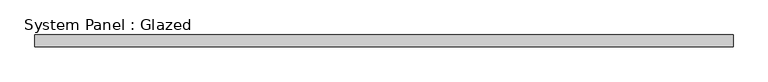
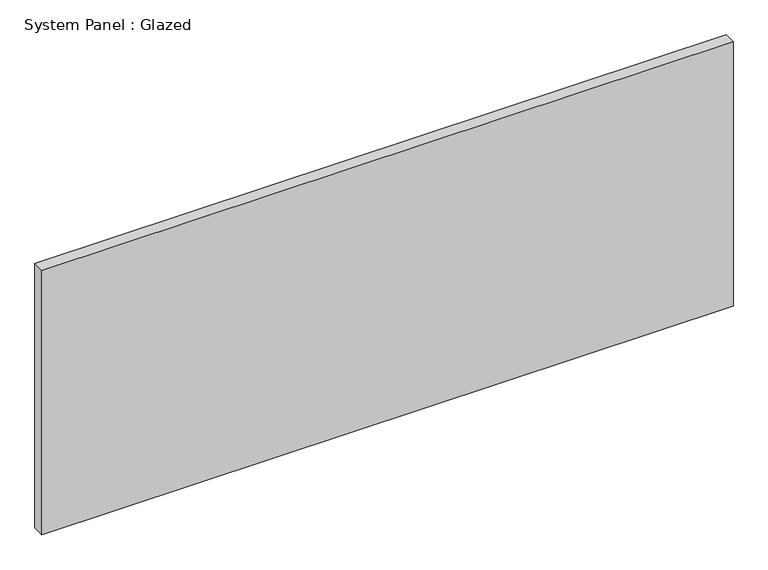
"""IFC4 building model written with IfcOpenShell, lengths in millimetres: plate geometry, System Panel : Glazed."""

import ifcopenshell
import ifcopenshell.guid

model = None  # the IFC model being written
_history = None  # IfcOwnerHistory: only IFC2X3 demands one
_inside = {}  # id of a spatial element -> (the spatial element, [elements in it])
_under = {}  # id of a project, library or spatial element -> (it, [spatial elements below it])
_declared = {}  # id of a project -> (the project, [libraries it declares])
_typed = {}  # id of a type object -> (the type object, [elements of that type])
_made_of = {}  # id of a material, layer set ... -> (it, [elements and type objects made of it])


def new_model(schema):
    """Start an empty IFC model of exactly this schema.

    Asked for "IFC4X3", IfcOpenShell would pick the latest addendum, in which some entities
    have other attributes; the version numbers below select the first issue.
    IFC2X3 requires an IfcOwnerHistory on every rooted entity: one is made here for all.
    """
    global model, _history
    if schema == "IFC4X3":
        model = ifcopenshell.file(schema_version=(4, 3, 0, 0))
    else:
        model = ifcopenshell.file(schema=schema)
    _inside.clear()
    _under.clear()
    _declared.clear()
    _typed.clear()
    _made_of.clear()
    _history = None
    if model.schema == "IFC2X3":
        org = make("IfcOrganization", Name="unknown")
        user = make(
            "IfcPersonAndOrganization",
            ThePerson=make("IfcPerson", FamilyName="unknown"),
            TheOrganization=org,
        )
        app = make(
            "IfcApplication",
            ApplicationDeveloper=org,
            Version="unknown",
            ApplicationFullName="unknown",
            ApplicationIdentifier="unknown",
        )
        _history = make(
            "IfcOwnerHistory",
            OwningUser=user,
            OwningApplication=app,
            ChangeAction="ADDED",
            CreationDate=0,
        )
    return model


def make(cls, **values):
    """One entity of the class cls with the attributes given. An attribute that is None is left unset."""
    return model.create_entity(
        cls, **{name: value for name, value in values.items() if value is not None}
    )


def rooted(cls, **values):
    """An entity with a GlobalId (a new one), such as an element, a storey or a relation."""
    return make(cls, GlobalId=ifcopenshell.guid.new(), OwnerHistory=_history, **values)


def si_unit(unit_type, name, prefix=None):
    """IfcSIUnit, for example si_unit("LENGTHUNIT", "METRE", prefix="MILLI")."""
    return make("IfcSIUnit", UnitType=unit_type, Prefix=prefix, Name=name)


def assignment(units):
    """IfcUnitAssignment: the units of a project."""
    return None if units is None else make("IfcUnitAssignment", Units=units)


def point(xyz):
    """IfcCartesianPoint."""
    return None if xyz is None else make("IfcCartesianPoint", Coordinates=xyz)


def direction(xyz):
    """IfcDirection."""
    return None if xyz is None else make("IfcDirection", DirectionRatios=xyz)


def frame(location, z_axis=None, x_axis=None):
    """IfcAxis2Placement3D, a coordinate frame: its origin and axes. An axis left out is left unset."""
    return make(
        "IfcAxis2Placement3D",
        Location=point(location),
        Axis=direction(z_axis),
        RefDirection=direction(x_axis),
    )


def origin():
    """The frame at (0, 0, 0) with its axes left unset."""
    return frame((0.0, 0.0, 0.0))


def origin_with_axes():
    """The frame at (0, 0, 0) with the z axis (0, 0, 1) and the x axis (1, 0, 0) written out."""
    return frame((0.0, 0.0, 0.0), z_axis=(0.0, 0.0, 1.0), x_axis=(1.0, 0.0, 0.0))


def place(relative_to, where):
    """IfcLocalPlacement: puts the frame where relative to a parent placement (None: the world)."""
    return make(
        "IfcLocalPlacement", PlacementRelTo=relative_to, RelativePlacement=where
    )


def context(
    kind, dimensions, precision=None, world=None, true_north=None, identifier=None
):
    """IfcGeometricRepresentationContext, for example the 3D "Model" context."""
    return make(
        "IfcGeometricRepresentationContext",
        ContextIdentifier=identifier,
        ContextType=kind,
        CoordinateSpaceDimension=dimensions,
        Precision=precision,
        WorldCoordinateSystem=world,
        TrueNorth=true_north,
    )


def project(units=None, contexts=None):
    """IfcProject with its units and contexts."""
    return rooted(
        "IfcProject",
        Name="project",
        RepresentationContexts=contexts,
        UnitsInContext=assignment(units),
    )


def spatial(cls, under=None, at=None, **own):
    """A site, building, storey or space (cls), placed at a placement, below another one or the project."""
    s = rooted(cls, ObjectPlacement=at, **own)
    if under is not None:
        _under.setdefault(under.id(), (under, []))[1].append(s)
    return s


def polyline(points):
    """IfcPolyline through the points."""
    return make("IfcPolyline", Points=[point(p) for p in points])


def outline(outer, holes=None, kind="AREA"):
    """IfcArbitraryClosedProfileDef: a profile drawn as a closed curve; with holes, ...WithVoids."""
    if holes is None:
        return make("IfcArbitraryClosedProfileDef", ProfileType=kind, OuterCurve=outer)
    return make(
        "IfcArbitraryProfileDefWithVoids",
        ProfileType=kind,
        OuterCurve=outer,
        InnerCurves=holes,
    )


def extrude(swept, where, along, depth):
    """IfcExtrudedAreaSolid: the profile swept, set in the frame where, extruded along a direction by depth."""
    return make(
        "IfcExtrudedAreaSolid",
        SweptArea=swept,
        Position=where,
        ExtrudedDirection=direction(along),
        Depth=depth,
    )


def shape(context_of_items, identifier, shape_type, items):
    """IfcShapeRepresentation: the items that make up one representation, for example the "Body"."""
    return make(
        "IfcShapeRepresentation",
        ContextOfItems=context_of_items,
        RepresentationIdentifier=identifier,
        RepresentationType=shape_type,
        Items=items,
    )


def source(mapping_origin, context_of_items, identifier, shape_type, items):
    """IfcRepresentationMap: a shape defined once, which mapped items show again and again."""
    return make(
        "IfcRepresentationMap",
        MappingOrigin=mapping_origin,
        MappedRepresentation=shape(context_of_items, identifier, shape_type, items),
    )


def transform(
    local_origin,
    x_axis=None,
    y_axis=None,
    z_axis=None,
    scale=None,
    scale2=None,
    scale3=None,
    uniform=True,
):
    """IfcCartesianTransformationOperator3D, or its non-uniform kind. x_axis, y_axis, z_axis: its Axis1, 2, 3."""
    if uniform:
        return make(
            "IfcCartesianTransformationOperator3D",
            Axis1=direction(x_axis),
            Axis2=direction(y_axis),
            LocalOrigin=point(local_origin),
            Scale=scale,
            Axis3=direction(z_axis),
        )
    return make(
        "IfcCartesianTransformationOperator3DnonUniform",
        Axis1=direction(x_axis),
        Axis2=direction(y_axis),
        LocalOrigin=point(local_origin),
        Scale=scale,
        Axis3=direction(z_axis),
        Scale2=scale2,
        Scale3=scale3,
    )


def mapped(mapping_source, mapping_target):
    """IfcMappedItem: shows the shape of a source again, moved by a transform."""
    return make(
        "IfcMappedItem", MappingSource=mapping_source, MappingTarget=mapping_target
    )


def made_of(thing, what):
    """Note that an element or type object is made of a material, layer set ...; save() writes the relation."""
    if what is not None:
        _made_of.setdefault(what.id(), (what, []))[1].append(thing)
    return thing


def element(
    cls,
    number,
    at=None,
    inside=None,
    cuts=None,
    type_object=None,
    material=None,
    context=None,
    identifier="Body",
    shape_type=None,
    held_by="IfcProductDefinitionShape",
    body=None,
    shapes=None,
    **own,
):
    """One element of the class cls, such as IfcWall. Its Tag is "e" and its number.

    at: its placement. inside: the storey or other place that contains it. cuts: it is an
    opening in that element (IfcRelVoidsElement). A single representation is given by context,
    identifier, shape_type and body (its items); several are given by shapes. held_by: the class
    of the entity that holds the representations. save() writes the other relations.
    """
    e = rooted(cls, Tag="e%d" % number, ObjectPlacement=at, **own)
    if body is not None:
        shapes = [shape(context, identifier, shape_type, body)]
    if shapes is not None:
        e.Representation = make(held_by, Representations=shapes)
    if inside is not None:
        _inside.setdefault(inside.id(), (inside, []))[1].append(e)
    if cuts is not None:
        rooted(
            "IfcRelVoidsElement", RelatingBuildingElement=cuts, RelatedOpeningElement=e
        )
    if type_object is not None:
        _typed.setdefault(type_object.id(), (type_object, []))[1].append(e)
    return made_of(e, material)


def aggregate(whole, parts):
    """IfcRelAggregates: a whole, such as a stair, and the parts it consists of."""
    return rooted("IfcRelAggregates", RelatingObject=whole, RelatedObjects=parts)


def save(model, path):
    """Write the relations noted so far, then the file.

    IfcRelAggregates (storeys below a building ...), IfcRelContainedInSpatialStructure (elements
    in a storey), IfcRelDefinesByType, IfcRelAssociatesMaterial and IfcRelDeclares: one each for
    every whole, place, type object, material and project.
    """
    for whole, parts in _under.values():
        aggregate(whole, parts)
    for where, things in _inside.values():
        rooted(
            "IfcRelContainedInSpatialStructure",
            RelatedElements=things,
            RelatingStructure=where,
        )
    for kind, things in _typed.values():
        rooted("IfcRelDefinesByType", RelatedObjects=things, RelatingType=kind)
    for what, things in _made_of.values():
        rooted("IfcRelAssociatesMaterial", RelatedObjects=things, RelatingMaterial=what)
    for by, libraries in _declared.values():
        rooted("IfcRelDeclares", RelatingContext=by, RelatedDefinitions=libraries)
    model.write(path)


def system_panel_glazed_79299351(model_context):
    return source(origin(), model_context, "Body", "SweptSolid", [
        extrude(outline(polyline([(728.90625, 24.5), (-728.90625, 24.5), (-728.90625, 49.5), (728.90625, 49.5), (728.90625, 24.5)])), origin_with_axes(), (0.0, 0.0, 1.0), 590.0),
    ])


if __name__ == "__main__":
    model = new_model("IFC4")
    model_context = context("Model", 3, world=origin())
    ifc_project = project(units=[si_unit("LENGTHUNIT", "METRE", prefix="MILLI")], contexts=[model_context])
    site = spatial("IfcSite", under=ifc_project)
    building = spatial("IfcBuilding", under=site)
    placement = place(None, origin())
    system_panel_glazed_shape = system_panel_glazed_79299351(model_context)
    element("IfcPlate", 1, ObjectType="System Panel : Glazed", at=placement, inside=building, context=model_context, shape_type="MappedRepresentation", body=[
        mapped(system_panel_glazed_shape, transform((0.0, 0.0, 0.0), x_axis=(1.0, 0.0, 0.0), y_axis=(0.0, 1.0, 0.0), z_axis=(0.0, 0.0, 1.0))),
    ])
    save(model, "model.ifc")
